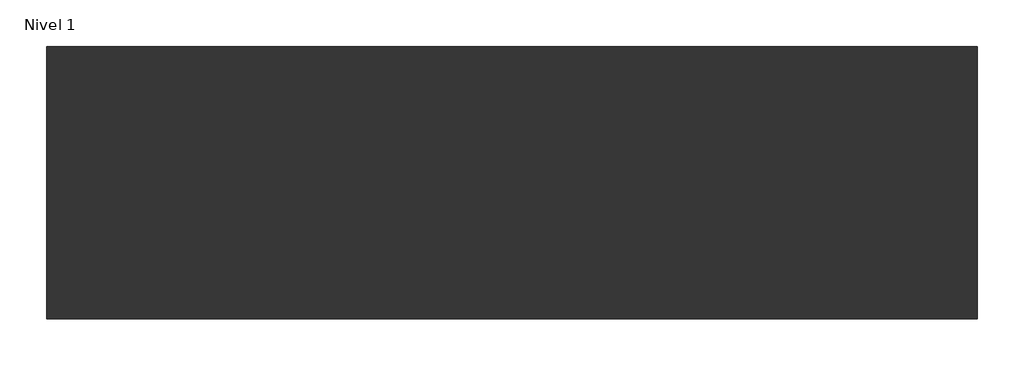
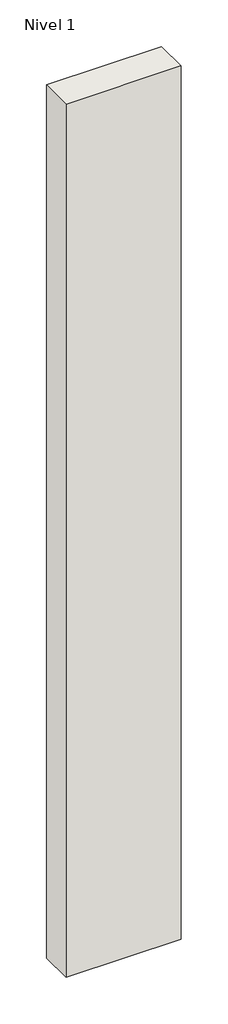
# One storey: 1 wall.
"""IFC4 building model written with IfcOpenShell, lengths in millimetres."""

from ifc_helpers import new_model, si_unit, origin, origin_with_axes, place, context, project, spatial, polyline, outline, extrude, element, save

model = new_model("IFC4")

# Units and contexts
model_context = context("Model", 3, world=origin())
ifc_project = project(units=[si_unit("LENGTHUNIT", "METRE", prefix="MILLI")], contexts=[model_context])

# Site, building, storey
site = spatial("IfcSite", under=ifc_project)
building = spatial("IfcBuilding", under=site)
storey = spatial("IfcBuildingStorey", under=building, Name="Nivel 1", Elevation=0.0)

# Wall
placement = place(None, origin())
element("IfcWall", 1, ObjectType="Piedra natural + plancha poliuretano + LC 1/2 pie + yeso", at=placement, inside=storey, context=model_context, shape_type="SweptSolid", body=[
    extrude(outline(polyline([(-3167.1347582, 3510.4505819), (-4167.1347582, 3510.4505819), (-4167.1347582, 3803.4505819), (-3167.1347582, 3803.4505819), (-3167.1347582, 3510.4505819)])), origin_with_axes(), (0.0, 0.0, 1.0), 8000.0),
])

save(model, "model.ifc")
